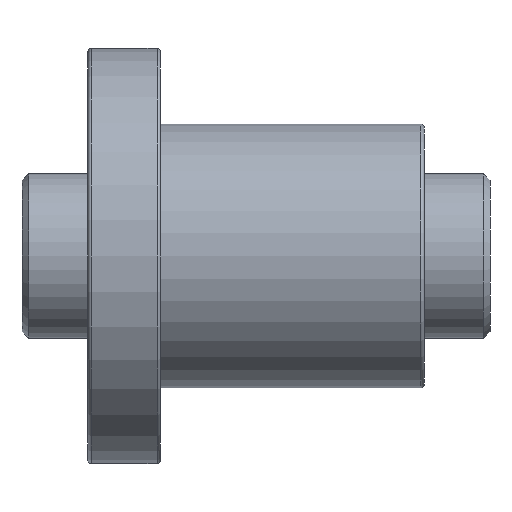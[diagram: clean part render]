
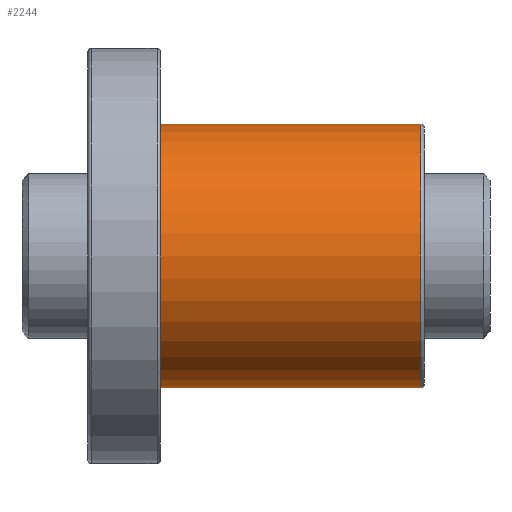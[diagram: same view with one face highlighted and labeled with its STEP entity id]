
A CAD part, front view. The second image highlights one B-rep face of the part: STEP entity #2244.
In plain terms, the highlighted cylindrical face has radius 20 mm (diameter 40 mm), a partial arc.
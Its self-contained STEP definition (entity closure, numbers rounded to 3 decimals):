
#176 = EDGE_CURVE ( 'NONE', #1750, #3484, #953, .T. ) ;
#376 = CARTESIAN_POINT ( 'NONE',  ( 44., 0., 20. ) ) ;
#498 = CARTESIAN_POINT ( 'NONE',  ( 11., 0., -20. ) ) ;
#522 = FACE_OUTER_BOUND ( 'NONE', #2565, .T. ) ;
#548 = ORIENTED_EDGE ( 'NONE', *, *, #176, .T. ) ;
#645 = ORIENTED_EDGE ( 'NONE', *, *, #1851, .T. ) ;
#688 = CARTESIAN_POINT ( 'NONE',  ( 50.5, 0., 20. ) ) ;
#701 = EDGE_CURVE ( 'NONE', #3484, #2106, #2334, .T. ) ;
#704 = DIRECTION ( 'NONE',  ( 0., 0., -1. ) ) ;
#783 = VECTOR ( 'NONE', #1966, 1000. ) ;
#833 = DIRECTION ( 'NONE',  ( -1., 0., 0. ) ) ;
#880 = CARTESIAN_POINT ( 'NONE',  ( 44., 0., 0. ) ) ;
#953 = LINE ( 'NONE', #376, #783 ) ;
#956 = VERTEX_POINT ( 'NONE', #3155 ) ;
#1387 = DIRECTION ( 'NONE',  ( 1., 0., 0. ) ) ;
#1750 = VERTEX_POINT ( 'NONE', #688 ) ;
#1822 = AXIS2_PLACEMENT_3D ( 'NONE', #3015, #1387, #3278 ) ;
#1851 = EDGE_CURVE ( 'NONE', #956, #1750, #3522, .T. ) ;
#1878 = CARTESIAN_POINT ( 'NONE',  ( 11., 0., 20. ) ) ;
#1966 = DIRECTION ( 'NONE',  ( -1., 0., 0. ) ) ;
#1987 = AXIS2_PLACEMENT_3D ( 'NONE', #2556, #2311, #704 ) ;
#2106 = VERTEX_POINT ( 'NONE', #498 ) ;
#2162 = ORIENTED_EDGE ( 'NONE', *, *, #701, .T. ) ;
#2207 = EDGE_CURVE ( 'NONE', #956, #2106, #3919, .T. ) ;
#2244 = ADVANCED_FACE ( 'NONE', ( #522 ), #3709, .T. ) ;
#2311 = DIRECTION ( 'NONE',  ( -1., 0., 0. ) ) ;
#2334 = CIRCLE ( 'NONE', #1822, 20. ) ;
#2442 = CARTESIAN_POINT ( 'NONE',  ( 44., 0., -20. ) ) ;
#2516 = AXIS2_PLACEMENT_3D ( 'NONE', #880, #833, #4034 ) ;
#2556 = CARTESIAN_POINT ( 'NONE',  ( 50.5, 0., 0. ) ) ;
#2565 = EDGE_LOOP ( 'NONE', ( #3045, #645, #548, #2162 ) ) ;
#3015 = CARTESIAN_POINT ( 'NONE',  ( 11., 0., 0. ) ) ;
#3045 = ORIENTED_EDGE ( 'NONE', *, *, #2207, .F. ) ;
#3047 = VECTOR ( 'NONE', #3352, 1000. ) ;
#3155 = CARTESIAN_POINT ( 'NONE',  ( 50.5, 0., -20. ) ) ;
#3278 = DIRECTION ( 'NONE',  ( 0., 0., -1. ) ) ;
#3352 = DIRECTION ( 'NONE',  ( -1., 0., 0. ) ) ;
#3484 = VERTEX_POINT ( 'NONE', #1878 ) ;
#3522 = CIRCLE ( 'NONE', #1987, 20. ) ;
#3709 = CYLINDRICAL_SURFACE ( 'NONE', #2516, 20. ) ;
#3919 = LINE ( 'NONE', #2442, #3047 ) ;
#4034 = DIRECTION ( 'NONE',  ( 0., 0., 1. ) ) ;
